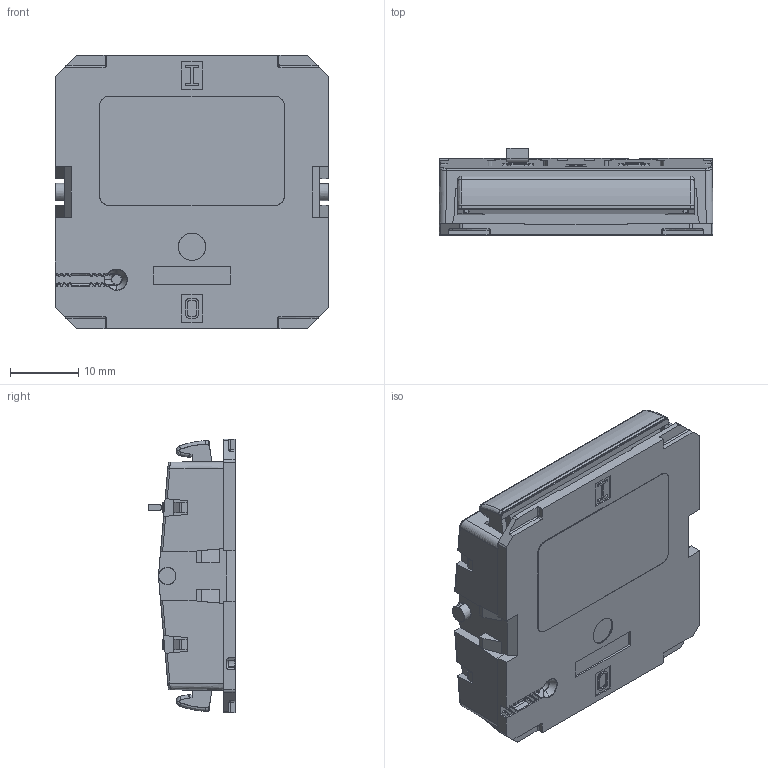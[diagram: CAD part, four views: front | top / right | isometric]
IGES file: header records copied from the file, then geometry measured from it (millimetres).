
Start section: SolidWorks IGES file using analytic representation for surfaces
Global section: file name: C:\Users\sven.klausnitzer\Desktop\PTM 210 update\Aufbereitet für SVN\EinbauanweisungPTM210-Schaltsteg-nicht-gedrückt _14-04-2020.IGS; native system: SolidWorks 2014; preprocessor: SolidWorks 2014; author: sven.klausnitzer; date: 200420.205243; units: millimetre
Bounding box: 40 x 12.8 x 40 mm (x, y, z)
Surface area: 8464.7 mm2 (no closed solid volume)
Topology: 0 solids, 0 shells, 1073 faces, 8320 edges, 8272 vertices
Faces by surface type: bspline 650, revolution 423
